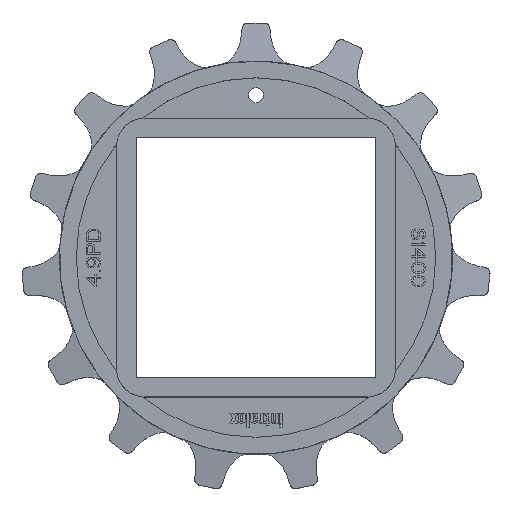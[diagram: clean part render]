
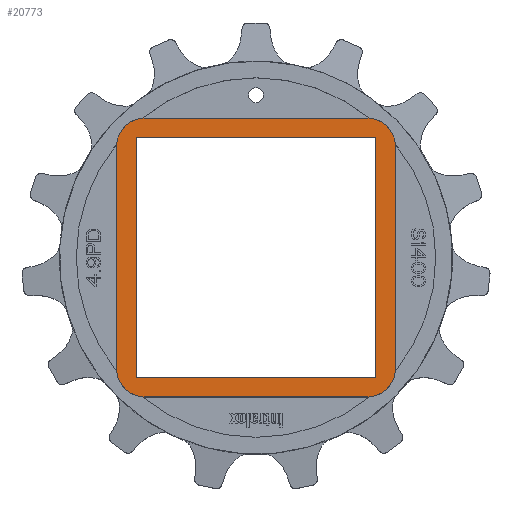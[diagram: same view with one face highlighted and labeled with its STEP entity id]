
A CAD part, top view. The second image highlights one B-rep face of the part: STEP entity #20773.
In plain terms, the highlighted planar face has unit normal (0, 0, 1).
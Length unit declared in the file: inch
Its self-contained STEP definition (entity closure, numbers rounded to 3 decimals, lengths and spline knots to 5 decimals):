
#7777=CARTESIAN_POINT('',(-1.155,1.155,0.75));
#7778=DIRECTION('',(0.,0.,1.));
#7779=DIRECTION('',(0.,1.,0.));
#7780=AXIS2_PLACEMENT_3D('',#7777,#7778,#7779);
#7782=DIRECTION('',(-1.,0.,0.));
#7783=VECTOR('',#7782,2.31);
#7784=CARTESIAN_POINT('',(1.155,1.455,0.75));
#7785=LINE('',#7784,#7783);
#7786=CARTESIAN_POINT('',(1.155,1.155,0.75));
#7787=DIRECTION('',(0.,0.,1.));
#7788=DIRECTION('',(1.,0.,0.));
#7789=AXIS2_PLACEMENT_3D('',#7786,#7787,#7788);
#7791=DIRECTION('',(0.,1.,0.));
#7792=VECTOR('',#7791,2.31);
#7793=CARTESIAN_POINT('',(1.455,-1.155,0.75));
#7794=LINE('',#7793,#7792);
#7795=CARTESIAN_POINT('',(1.155,-1.155,0.75));
#7796=DIRECTION('',(0.,0.,1.));
#7797=DIRECTION('',(0.,-1.,0.));
#7798=AXIS2_PLACEMENT_3D('',#7795,#7796,#7797);
#7800=DIRECTION('',(1.,0.,0.));
#7801=VECTOR('',#7800,2.31);
#7802=CARTESIAN_POINT('',(-1.155,-1.455,0.75));
#7803=LINE('',#7802,#7801);
#7804=CARTESIAN_POINT('',(-1.155,-1.155,0.75));
#7805=DIRECTION('',(0.,0.,1.));
#7806=DIRECTION('',(-1.,0.,0.));
#7807=AXIS2_PLACEMENT_3D('',#7804,#7805,#7806);
#7809=DIRECTION('',(0.,-1.,0.));
#7810=VECTOR('',#7809,2.31);
#7811=CARTESIAN_POINT('',(-1.455,1.155,0.75));
#7812=LINE('',#7811,#7810);
#7813=DIRECTION('',(0.,-1.,0.));
#7814=VECTOR('',#7813,2.5);
#7815=CARTESIAN_POINT('',(-1.25,1.25,0.75));
#7816=LINE('',#7815,#7814);
#7817=DIRECTION('',(1.,0.,0.));
#7818=VECTOR('',#7817,2.5);
#7819=CARTESIAN_POINT('',(-1.25,-1.25,0.75));
#7820=LINE('',#7819,#7818);
#7821=DIRECTION('',(0.,1.,0.));
#7822=VECTOR('',#7821,2.5);
#7823=CARTESIAN_POINT('',(1.25,-1.25,0.75));
#7824=LINE('',#7823,#7822);
#7825=DIRECTION('',(-1.,0.,0.));
#7826=VECTOR('',#7825,2.5);
#7827=CARTESIAN_POINT('',(1.25,1.25,0.75));
#7828=LINE('',#7827,#7826);
#7861=CARTESIAN_POINT('',(-1.155,1.455,0.75));
#7862=CARTESIAN_POINT('',(-1.455,1.155,0.75));
#7863=VERTEX_POINT('',#7861);
#7864=VERTEX_POINT('',#7862);
#7865=CARTESIAN_POINT('',(-1.455,-1.155,0.75));
#7866=VERTEX_POINT('',#7865);
#7867=CARTESIAN_POINT('',(-1.155,-1.455,0.75));
#7868=VERTEX_POINT('',#7867);
#7869=CARTESIAN_POINT('',(1.155,-1.455,0.75));
#7870=VERTEX_POINT('',#7869);
#7871=CARTESIAN_POINT('',(1.455,-1.155,0.75));
#7872=VERTEX_POINT('',#7871);
#7873=CARTESIAN_POINT('',(1.455,1.155,0.75));
#7874=VERTEX_POINT('',#7873);
#7875=CARTESIAN_POINT('',(1.155,1.455,0.75));
#7876=VERTEX_POINT('',#7875);
#10195=CARTESIAN_POINT('',(-1.25,1.25,0.75));
#10196=CARTESIAN_POINT('',(-1.25,-1.25,0.75));
#10197=VERTEX_POINT('',#10195);
#10198=VERTEX_POINT('',#10196);
#10199=CARTESIAN_POINT('',(1.25,-1.25,0.75));
#10200=VERTEX_POINT('',#10199);
#10201=CARTESIAN_POINT('',(1.25,1.25,0.75));
#10202=VERTEX_POINT('',#10201);
#20748=CARTESIAN_POINT('',(0.,0.,0.75));
#20749=DIRECTION('',(0.,0.,1.));
#20750=DIRECTION('',(1.,0.,0.));
#20751=AXIS2_PLACEMENT_3D('',#20748,#20749,#20750);
#20752=PLANE('',#20751);
#20753=ORIENTED_EDGE('',*,*,#13021,.F.);
#20754=ORIENTED_EDGE('',*,*,#13126,.F.);
#20755=ORIENTED_EDGE('',*,*,#13367,.F.);
#20756=ORIENTED_EDGE('',*,*,#13400,.F.);
#20757=ORIENTED_EDGE('',*,*,#13432,.F.);
#20758=ORIENTED_EDGE('',*,*,#13463,.F.);
#20759=ORIENTED_EDGE('',*,*,#13219,.F.);
#20760=ORIENTED_EDGE('',*,*,#13185,.F.);
#20761=EDGE_LOOP('',(#20753,#20754,#20755,#20756,#20757,#20758,#20759,#20760));
#20762=FACE_OUTER_BOUND('',#20761,.F.);
#20764=ORIENTED_EDGE('',*,*,#20763,.T.);
#20766=ORIENTED_EDGE('',*,*,#20765,.T.);
#20768=ORIENTED_EDGE('',*,*,#20767,.T.);
#20770=ORIENTED_EDGE('',*,*,#20769,.T.);
#20771=EDGE_LOOP('',(#20764,#20766,#20768,#20770));
#20772=FACE_BOUND('',#20771,.F.);
#20773=ADVANCED_FACE('',(#20762,#20772),#20752,.T.);
#7781=CIRCLE('',#7780,0.3);
#7790=CIRCLE('',#7789,0.3);
#7799=CIRCLE('',#7798,0.3);
#7808=CIRCLE('',#7807,0.3);
#13021=EDGE_CURVE('',#7863,#7864,#7781,.T.);
#13126=EDGE_CURVE('',#7876,#7863,#7785,.T.);
#13185=EDGE_CURVE('',#7864,#7866,#7812,.T.);
#13219=EDGE_CURVE('',#7866,#7868,#7808,.T.);
#13367=EDGE_CURVE('',#7874,#7876,#7790,.T.);
#13400=EDGE_CURVE('',#7872,#7874,#7794,.T.);
#13432=EDGE_CURVE('',#7870,#7872,#7799,.T.);
#13463=EDGE_CURVE('',#7868,#7870,#7803,.T.);
#20763=EDGE_CURVE('',#10197,#10198,#7816,.T.);
#20765=EDGE_CURVE('',#10198,#10200,#7820,.T.);
#20767=EDGE_CURVE('',#10200,#10202,#7824,.T.);
#20769=EDGE_CURVE('',#10202,#10197,#7828,.T.);
